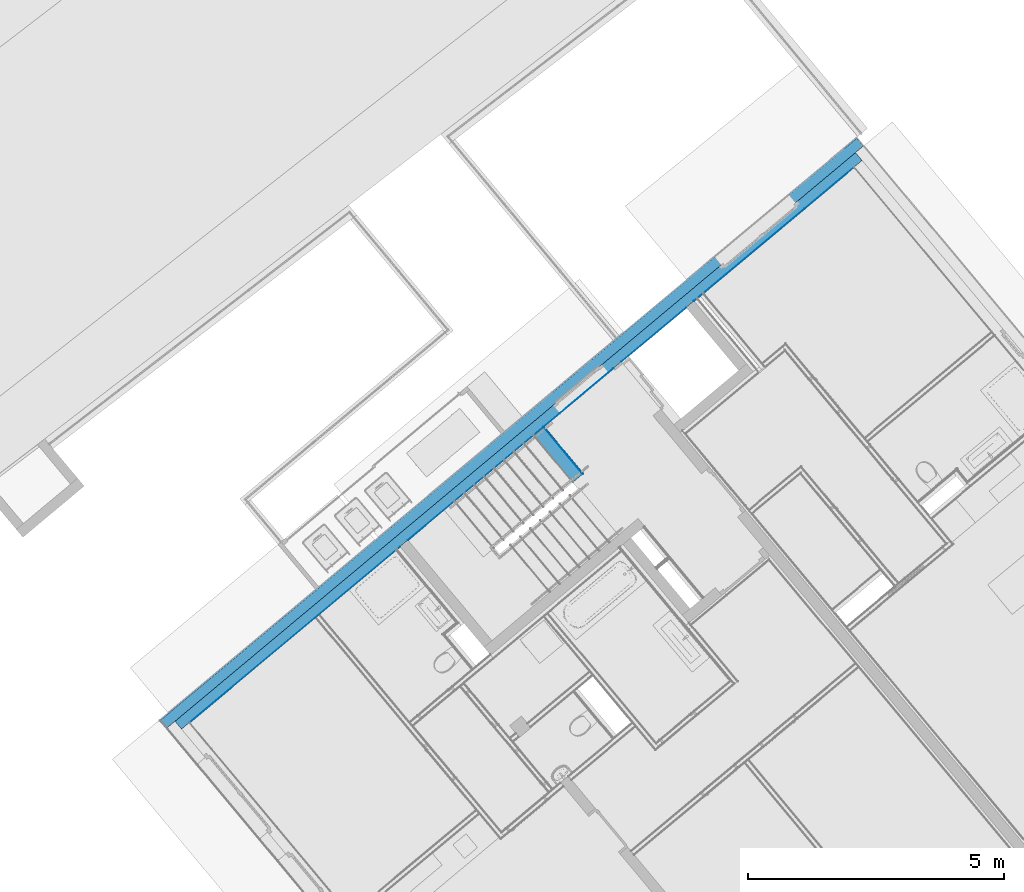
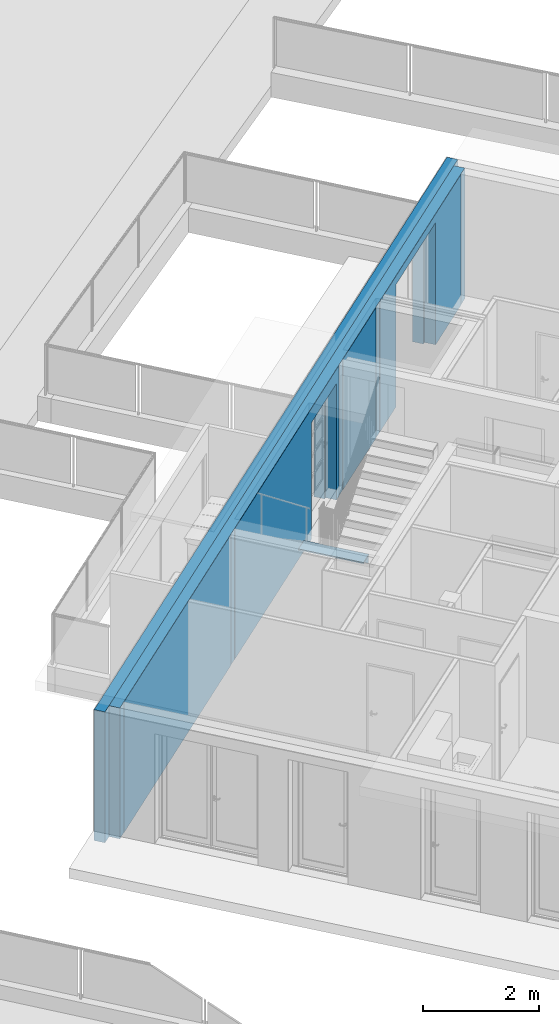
# One storey, part 39 of 75: 5 building element parts, 2 openings, 2 elements without a shape of their own.
"""IFC4 building model written with IfcOpenShell, lengths in metres."""

from ifc_helpers import new_model, entity, si_unit, converted_unit, derived_unit, direction, frame, origin_with_axes, place, context, subcontext, project, spatial, polygons, material, type_object, element, aggregate, save


model = new_model("IFC4")

# Units and contexts
model_context = context("Model", 3, precision=1e-05, world=origin_with_axes(), true_north=direction((0.0, 1.0)))
body_context = subcontext(model_context, "Body", "Model", "MODEL_VIEW")
ifc_project = project(units=[si_unit("LENGTHUNIT", "METRE"), si_unit("AREAUNIT", "SQUARE_METRE"), si_unit("VOLUMEUNIT", "CUBIC_METRE"), converted_unit("PLANEANGLEUNIT", "DEGREE", entity("IfcPlaneAngleMeasure", 0.0174532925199), si_unit("PLANEANGLEUNIT", "RADIAN"), dimensions=[0, 0, 0, 0, 0, 0, 0]), converted_unit("TIMEUNIT", "Year", entity("IfcTimeMeasure", 31556926.0), si_unit("TIMEUNIT", "SECOND"), dimensions=[0, 0, 1, 0, 0, 0, 0]), si_unit("MASSUNIT", "GRAM", prefix="KILO"), si_unit("THERMODYNAMICTEMPERATUREUNIT", "DEGREE_CELSIUS"), si_unit("LUMINOUSINTENSITYUNIT", "LUMEN"), si_unit("ENERGYUNIT", "JOULE", prefix="MEGA"), derived_unit("THERMALCONDUCTANCEUNIT", [(si_unit("POWERUNIT", "WATT"), 1), (si_unit("LENGTHUNIT", "METRE"), -1), (si_unit("THERMODYNAMICTEMPERATUREUNIT", "KELVIN"), -1)]), derived_unit("SPECIFICHEATCAPACITYUNIT", [(si_unit("ENERGYUNIT", "JOULE"), 1), (si_unit("MASSUNIT", "GRAM", prefix="KILO"), -1), (si_unit("THERMODYNAMICTEMPERATUREUNIT", "KELVIN"), -1)]), derived_unit("MASSDENSITYUNIT", [(si_unit("MASSUNIT", "GRAM", prefix="KILO"), 1), (si_unit("VOLUMEUNIT", "CUBIC_METRE"), -1)])], contexts=[model_context])

# Site, building, storey
site_placement = place(None, frame((-0.00153261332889, -0.00661245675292, 0.0), z_axis=(0.0, 0.0, 1.0), x_axis=(1.0, 0.0, 0.0)))
site = spatial("IfcSite", under=ifc_project, at=site_placement, Name="Gelände", CompositionType="ELEMENT")
building_placement = place(site_placement, origin_with_axes())
building = spatial("IfcBuilding", under=site, at=building_placement, Name="Gebäude", CompositionType="ELEMENT")
storey_placement = place(building_placement, frame((0.0, 0.0, -0.22), z_axis=(0.0, 0.0, 1.0), x_axis=(1.0, 0.0, 0.0)))
storey = spatial("IfcBuildingStorey", under=building, at=storey_placement, Name="EG", CompositionType="ELEMENT", Elevation=-0.22)

# Wall, openings, building element parts
wall_type = type_object("IfcWallType", Name="AW EG 420", PredefinedType="NOTDEFINED")
wall_placement = place(storey_placement, frame((-8.68307438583, 19.0183290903, 0.0), z_axis=(0.0, 0.0, 1.0), x_axis=(0.767365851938, 0.641209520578, 0.0)))
wall = element("IfcWall", 1, at=wall_placement, inside=storey, type_object=wall_type, Name="Wand-002", PredefinedType="NOTDEFINED")
opening_1_placement = place(wall_placement, frame((10.4605315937, 0.0, 0.0), z_axis=(0.0, 0.0, 1.0), x_axis=(1.0, 0.0, 0.0)))
element("IfcOpeningElement", 2, at=opening_1_placement, cuts=wall, Name="Tür-001", context=body_context, identifier="Reference", shape_type="Tessellation", body=[
    polygons([(-0.585, -0.215, 2.42), (0.585, -0.215, 2.42), (0.585, 8.73588612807, 2.42), (-0.585, 8.73588612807, 2.42), (0.585, -0.215, 0.0), (-0.585, -0.215, 0.0), (-0.625, -0.215, 0.0), (-0.625, -0.215, 2.46), (0.625, -0.215, 2.46), (0.625, -0.215, 0.0), (0.585, 8.73588612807, 0.0), (-0.585, 8.73588612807, 0.0), (0.625, -9.15588612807, 0.0), (-0.625, -9.15588612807, 0.0), (-0.625, -9.15588612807, 2.46), (0.625, -9.15588612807, 2.46)], [[[1, 2, 3, 4]], [[5, 2, 1, 6, 7, 8, 9, 10]], [[2, 5, 11, 3]], [[3, 11, 12, 4]], [[6, 1, 4, 12]], [[6, 12, 11, 5, 10, 13, 14, 7]], [[8, 7, 14, 15]], [[9, 8, 15, 16]], [[10, 9, 16, 13]], [[15, 14, 13, 16]]], closed=True),
])
opening_2_placement = place(wall_placement, frame((15.0631654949, 0.0, 0.22), z_axis=(0.0, 0.0, 1.0), x_axis=(1.0, 0.0, 0.0)))
element("IfcOpeningElement", 3, at=opening_2_placement, cuts=wall, Name="Tür-002", context=body_context, identifier="Reference", shape_type="Tessellation", body=[
    polygons([(-0.95, -0.215, 2.31), (0.95, -0.215, 2.31), (0.95, 8.73588612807, 2.31), (-0.95, 8.73588612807, 2.31), (0.95, -0.215, -0.22), (-0.95, -0.215, -0.22), (-1.0, -0.215, -0.22), (-1.0, -0.215, 2.36), (1.0, -0.215, 2.36), (1.0, -0.215, -0.22), (0.95, 8.73588612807, -0.22), (-0.95, 8.73588612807, -0.22), (1.0, -9.15588612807, -0.22), (-1.0, -9.15588612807, -0.22), (-1.0, -9.15588612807, 2.36), (1.0, -9.15588612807, 2.36)], [[[1, 2, 3, 4]], [[5, 2, 1, 6, 7, 8, 9, 10]], [[2, 5, 11, 3]], [[3, 11, 12, 4]], [[6, 1, 4, 12]], [[6, 12, 11, 5, 10, 13, 14, 7]], [[8, 7, 14, 15]], [[9, 8, 15, 16]], [[10, 9, 16, 13]], [[15, 14, 13, 16]]], closed=True),
])
ifc_material_1 = material(Name="EPS 1")
building_element_part_1_placement = place(wall_placement, origin_with_axes())
building_element_part_1 = element("IfcBuildingElementPart", 4, at=building_element_part_1_placement, material=ifc_material_1, Name="EPS 1", PredefinedType="NOTDEFINED", context=body_context, shape_type="Tessellation", body=[
    polygons([(14.1131654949, -0.215, 0.0), (14.1131654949, -0.215, 2.53), (16.0131654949, -0.215, 2.53), (16.0131654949, -0.215, 0.0), (17.7373076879, -0.215, 0.0), (17.7373076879, -0.215, 2.76), (0.0149999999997, -0.215, 2.76), (0.0149999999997, -0.215, 0.0), (9.87553159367, -0.215, 0.0), (9.87553159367, -0.215, 2.42), (11.0455315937, -0.215, 2.42), (11.0455315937, -0.215, 0.0), (14.1131654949, -0.015, 0.0), (14.1131654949, -0.015, 2.53), (16.0131654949, -0.015, 2.53), (16.0131654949, -0.015, 0.0), (17.7373076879, -0.015, 0.0), (17.7373076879, -0.015, 2.76), (0.015, -0.015, 2.76), (0.015, -0.015, 0.0), (9.87553159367, -0.015, 0.0), (9.87553159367, -0.015, 2.42), (11.0455315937, -0.015, 2.42), (11.0455315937, -0.015, 0.0)], [[[1, 2, 3, 4, 5, 6, 7, 8, 9, 10, 11, 12]], [[2, 1, 13, 14]], [[3, 2, 14, 15]], [[4, 3, 15, 16]], [[4, 16, 17, 5]], [[17, 18, 6, 5]], [[7, 6, 18, 19]], [[20, 8, 7, 19]], [[9, 8, 20, 21]], [[9, 21, 22, 10]], [[10, 22, 23, 11]], [[11, 23, 24, 12]], [[13, 1, 12, 24]], [[14, 13, 24, 23, 22, 21, 20, 19, 18, 17, 16, 15]]], closed=True),
])
ifc_material_2 = material(Name="Stahlbeton Wand")
building_element_part_2_placement = place(wall_placement, origin_with_axes())
building_element_part_2 = element("IfcBuildingElementPart", 5, at=building_element_part_2_placement, material=ifc_material_2, Name="Stahlbeton Wand", PredefinedType="NOTDEFINED", context=body_context, shape_type="Tessellation", body=[
    polygons([(14.0631654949, -0.415, 0.0), (14.0631654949, -0.415, 2.58), (16.0631654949, -0.415, 2.58), (16.0631654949, -0.415, 0.0), (17.5373076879, -0.415, 0.0), (17.5373076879, -0.415, 2.76), (0.214999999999, -0.415, 2.76), (0.214999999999, -0.415, 0.0), (9.83553159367, -0.415, 0.0), (9.83553159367, -0.415, 2.46), (11.0855315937, -0.415, 2.46), (11.0855315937, -0.415, 0.0), (14.0631654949, -0.215, 0.0), (14.0631654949, -0.215, 2.58), (16.0631654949, -0.215, 2.58), (16.0631654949, -0.215, 0.0), (17.5373076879, -0.215, 0.0), (17.5373076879, -0.215, 2.76), (0.215, -0.215, 2.76), (0.215, -0.215, 0.0), (9.83553159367, -0.215, 0.0), (9.83553159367, -0.215, 2.46), (11.0855315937, -0.215, 2.46), (11.0855315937, -0.215, 0.0)], [[[1, 2, 3, 4, 5, 6, 7, 8, 9, 10, 11, 12]], [[2, 1, 13, 14]], [[3, 2, 14, 15]], [[4, 3, 15, 16]], [[4, 16, 17, 5]], [[17, 18, 6, 5]], [[7, 6, 18, 19]], [[20, 8, 7, 19]], [[9, 8, 20, 21]], [[9, 21, 22, 10]], [[10, 22, 23, 11]], [[11, 23, 24, 12]], [[13, 1, 12, 24]], [[14, 13, 24, 23, 22, 21, 20, 19, 18, 17, 16, 15]]], closed=True),
])
ifc_material_3 = material(Name="Zementputz")
building_element_part_3_placement = place(wall_placement, origin_with_axes())
building_element_part_3 = element("IfcBuildingElementPart", 6, at=building_element_part_3_placement, material=ifc_material_3, Name="Zementputz", PredefinedType="NOTDEFINED", context=body_context, shape_type="Tessellation", body=[
    polygons([(5.77520574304, -0.415, 2.76), (0.414999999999, -0.415, 2.76), (0.414999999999, -0.42, 2.76), (5.77520574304, -0.42, 2.76), (5.77520574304, -0.415, 0.0), (0.414999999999, -0.415, 0.0), (0.414999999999, -0.42, 0.0), (5.77520574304, -0.42, 0.0)], [[[1, 2, 3, 4]], [[5, 6, 2, 1]], [[3, 2, 6, 7]], [[4, 3, 7, 8]], [[4, 8, 5, 1]], [[8, 7, 6, 5]]], closed=True),
    polygons([(9.83553159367, -0.42, 0.0), (9.83553159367, -0.42, 2.46), (11.0855315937, -0.42, 2.46), (11.0855315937, -0.42, 0.0), (11.2074309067, -0.42, 0.0), (11.2074309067, -0.42, 2.76), (5.97520574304, -0.42, 2.76), (5.97520574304, -0.42, 0.0), (9.83553159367, -0.415, 0.0), (9.83553159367, -0.415, 2.46), (11.0855315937, -0.415, 2.46), (11.0855315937, -0.415, 0.0), (11.2074332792, -0.415, 0.0), (11.2074332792, -0.415, 2.76), (5.97520574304, -0.415, 2.76), (5.97520574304, -0.415, 0.0)], [[[1, 2, 3, 4, 5, 6, 7, 8]], [[2, 1, 9, 10]], [[3, 2, 10, 11]], [[4, 3, 11, 12]], [[4, 12, 13, 5]], [[5, 13, 14, 6]], [[15, 7, 6, 14]], [[15, 16, 8, 7]], [[9, 1, 8, 16]], [[10, 9, 16, 15, 14, 13, 12, 11]]], closed=True),
    polygons([(13.0571733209, -0.415, 2.76), (11.4074333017, -0.415, 2.76), (11.4074309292, -0.42, 2.76), (13.0571733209, -0.42, 2.76), (13.0571733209, -0.415, 0.0), (11.4074333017, -0.415, 0.0), (11.4074309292, -0.42, 0.0), (13.0571733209, -0.42, 0.0)], [[[1, 2, 3, 4]], [[5, 6, 2, 1]], [[3, 2, 6, 7]], [[4, 3, 7, 8]], [[4, 8, 5, 1]], [[8, 7, 6, 5]]], closed=True),
    polygons([(14.0631654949, -0.42, 0.0), (14.0631654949, -0.42, 2.58), (16.0631654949, -0.42, 2.58), (16.0631654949, -0.42, 0.0), (17.3373076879, -0.42, 0.0), (17.3373076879, -0.42, 2.76), (13.2571733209, -0.42, 2.76), (13.2571733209, -0.42, 0.0), (14.0631654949, -0.415, 0.0), (14.0631654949, -0.415, 2.58), (16.0631654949, -0.415, 2.58), (16.0631654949, -0.415, 0.0), (17.3373076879, -0.415, 0.0), (17.3373076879, -0.415, 2.76), (13.2571733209, -0.415, 2.76), (13.2571733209, -0.415, 0.0)], [[[1, 2, 3, 4, 5, 6, 7, 8]], [[2, 1, 9, 10]], [[3, 2, 10, 11]], [[4, 3, 11, 12]], [[4, 12, 13, 5]], [[5, 13, 14, 6]], [[15, 7, 6, 14]], [[15, 16, 8, 7]], [[9, 1, 8, 16]], [[10, 9, 16, 15, 14, 13, 12, 11]]], closed=True),
])
aggregate(wall, [building_element_part_1, building_element_part_2, building_element_part_3])

# Space
space_placement = place(storey_placement, frame((0.257887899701, 22.6119986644, 0.22), z_axis=(0.0, 0.0, 1.0), x_axis=(-0.641204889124, 0.767369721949, 0.0)))
space = spatial("IfcSpace", under=storey, at=space_placement, CompositionType="ELEMENT", PredefinedType="NOTDEFINED")

# Stair, building element parts
stair_type = type_object("IfcStairType", Name="Treppentyp", PredefinedType="NOTDEFINED")
stair_placement = place(space_placement, frame((2.55982666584, -0.536119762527, -0.17), z_axis=(0.0, 0.0, 1.0), x_axis=(-0.641204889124, -0.767369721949, 0.0)))
stair = element("IfcStair", 7, at=stair_placement, inside=space, type_object=stair_type, Name="Treppe - 001", PredefinedType="NOTDEFINED")
ifc_material_4 = material(Name="BEKLEIDUNG")
building_element_part_4_placement = place(stair_placement, origin_with_axes())
building_element_part_4 = element("IfcBuildingElementPart", 8, at=building_element_part_4_placement, material=ifc_material_4, Name="BEKLEIDUNG", PredefinedType="NOTDEFINED", context=body_context, shape_type="Tessellation", body=[
    polygons([(-0.207379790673, -0.173268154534, 0.152058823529), (-0.215053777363, -0.179679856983, 0.152058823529), (0.55435051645, -1.10055825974, 0.152058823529), (0.56202450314, -1.09414655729, 0.152058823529), (-0.207379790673, -0.173268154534, 0.0), (-0.215053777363, -0.179679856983, 0.0), (0.55435051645, -1.10055825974, 0.0), (0.56202450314, -1.09414655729, 0.0)], [[[1, 2, 3, 4]], [[1, 5, 6, 2]], [[2, 6, 7, 3]], [[4, 3, 7, 8]], [[5, 1, 4, 8]], [[6, 5, 8, 7]]], closed=True),
])
building_element_part_5_placement = place(stair_placement, origin_with_axes())
building_element_part_5 = element("IfcBuildingElementPart", 9, at=building_element_part_5_placement, material=ifc_material_4, Name="BEKLEIDUNG", PredefinedType="NOTDEFINED", context=body_context, shape_type="Tessellation", body=[
    polygons([(0.573535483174, -1.08452900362, 0.152058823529), (-0.195868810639, -0.163650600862, 0.152058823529), (-0.195868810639, -0.163650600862, 0.177058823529), (0.573535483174, -1.08452900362, 0.177058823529), (0.361203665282, -1.26193463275, 0.152058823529), (-0.408200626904, -0.341056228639, 0.152058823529), (-0.408200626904, -0.341056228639, 0.177058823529), (0.361203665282, -1.26193463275, 0.177058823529)], [[[1, 2, 3, 4]], [[1, 5, 6, 2]], [[2, 6, 7, 3]], [[4, 3, 7, 8]], [[5, 1, 4, 8]], [[6, 5, 8, 7]]], closed=True),
])
aggregate(stair, [building_element_part_4, building_element_part_5])

save(model, "model.ifc")
